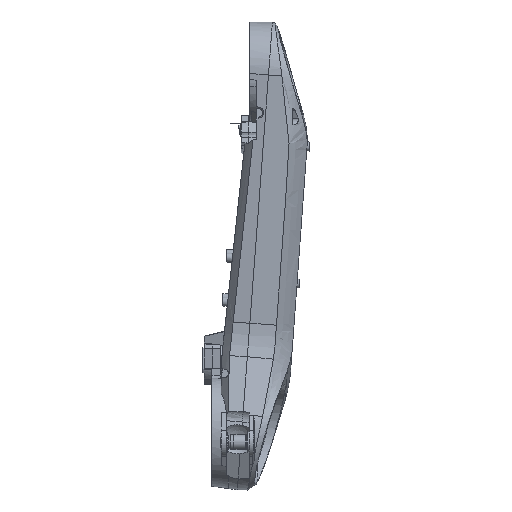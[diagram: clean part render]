
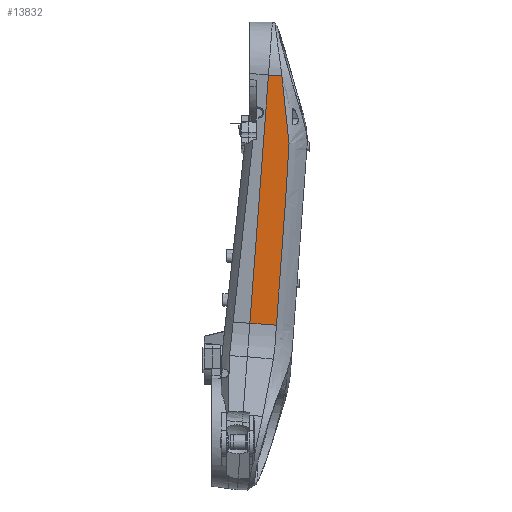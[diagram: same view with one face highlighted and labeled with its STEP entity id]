
A CAD part, left-side view. The second image highlights one B-rep face of the part: STEP entity #13832.
In plain terms, the highlighted planar face has unit normal (-0.996, -0.047, -0.073).
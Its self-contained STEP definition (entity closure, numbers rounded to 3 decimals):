
#414 = CARTESIAN_POINT ( 'NONE',  ( 229.807, -343.113, 1390.671 ) ) ;
#498 = CARTESIAN_POINT ( 'NONE',  ( 205.73, -367.907, 1734.301 ) ) ;
#1577 = CARTESIAN_POINT ( 'NONE',  ( 242.351, -234.819, 1150.414 ) ) ;
#2073 = DIRECTION ( 'NONE',  ( -0.996, -0.047, -0.073 ) ) ;
#2549 = CARTESIAN_POINT ( 'NONE',  ( 189.278, -348.891, 1946.025 ) ) ;
#2771 = CARTESIAN_POINT ( 'NONE',  ( 187.546, -346.544, 1968.094 ) ) ;
#3760 = CARTESIAN_POINT ( 'NONE',  ( 243.999, -328.336, 1188.018 ) ) ;
#3844 = CARTESIAN_POINT ( 'NONE',  ( 202.79, -367.36, 1773.966 ) ) ;
#3961 = CARTESIAN_POINT ( 'NONE',  ( 242.351, -234.819, 1150.414 ) ) ;
#4277 = CARTESIAN_POINT ( 'NONE',  ( 210.679, -363.031, 1663.812 ) ) ;
#5562 = CARTESIAN_POINT ( 'NONE',  ( 184.764, -296.668, 1973.944 ) ) ;
#5837 = CARTESIAN_POINT ( 'NONE',  ( 184.764, -296.668, 1973.944 ) ) ;
#6304 = CARTESIAN_POINT ( 'NONE',  ( 185.97, -343.982, 1987.903 ) ) ;
#6817 = EDGE_LOOP ( 'NONE', ( #26241, #29730, #18148, #32099 ) ) ;
#7097 = CARTESIAN_POINT ( 'NONE',  ( 247.084, -325.127, 1143.963 ) ) ;
#7172 = CARTESIAN_POINT ( 'NONE',  ( 204.608, -368.133, 1749.724 ) ) ;
#7301 = CARTESIAN_POINT ( 'NONE',  ( 213.147, -360.46, 1628.568 ) ) ;
#7383 = CARTESIAN_POINT ( 'NONE',  ( 204.12, -368.081, 1756.335 ) ) ;
#7603 = CARTESIAN_POINT ( 'NONE',  ( 207.594, -366.244, 1707.867 ) ) ;
#8803 = VECTOR ( 'NONE', #22459, 1000. ) ;
#8951 = FACE_OUTER_BOUND ( 'NONE', #6817, .T. ) ;
#9502 = AXIS2_PLACEMENT_3D ( 'NONE', #5837, #2073, #25824 ) ;
#9510 = CARTESIAN_POINT ( 'NONE',  ( 183.407, -298.125, 1993.351 ) ) ;
#9646 = CARTESIAN_POINT ( 'NONE',  ( 186.497, -344.867, 1981.303 ) ) ;
#10421 = CARTESIAN_POINT ( 'NONE',  ( 240.913, -331.547, 1232.073 ) ) ;
#10649 = CARTESIAN_POINT ( 'NONE',  ( 246.467, -325.766, 1152.774 ) ) ;
#10729 = CARTESIAN_POINT ( 'NONE',  ( 206.046, -367.739, 1729.895 ) ) ;
#11234 = CARTESIAN_POINT ( 'NONE',  ( 212.53, -361.102, 1637.379 ) ) ;
#12756 = CARTESIAN_POINT ( 'NONE',  ( 198.986, -362.233, 1822.461 ) ) ;
#13093 = VERTEX_POINT ( 'NONE', #38246 ) ;
#13612 = CARTESIAN_POINT ( 'NONE',  ( 207.44, -366.411, 1710.07 ) ) ;
#13832 = ADVANCED_FACE ( 'NONE', ( #8951 ), #18955, .T. ) ;
#13981 = CARTESIAN_POINT ( 'NONE',  ( 222.403, -350.823, 1496.403 ) ) ;
#14177 = EDGE_CURVE ( 'NONE', #21206, #13093, #35773, .T. ) ;
#14292 = CARTESIAN_POINT ( 'NONE',  ( 208.056, -365.759, 1701.259 ) ) ;
#16529 = CARTESIAN_POINT ( 'NONE',  ( 200.552, -364.546, 1802.622 ) ) ;
#16735 = CARTESIAN_POINT ( 'NONE',  ( 195.508, -357.185, 1866.558 ) ) ;
#17109 = CARTESIAN_POINT ( 'NONE',  ( 246.775, -325.444, 1148.369 ) ) ;
#17854 = CARTESIAN_POINT ( 'NONE',  ( 201.074, -365.319, 1796.01 ) ) ;
#17989 = CARTESIAN_POINT ( 'NONE',  ( 246.93, -325.282, 1146.166 ) ) ;
#18148 = ORIENTED_EDGE ( 'NONE', *, *, #31705, .F. ) ;
#18705 = EDGE_CURVE ( 'NONE', #13093, #32729, #43004, .T. ) ;
#18955 = PLANE ( 'NONE',  #9502 ) ;
#19331 = DIRECTION ( 'NONE',  ( 0.07, 0.075, -0.995 ) ) ;
#19626 = EDGE_CURVE ( 'NONE', #41558, #21206, #26664, .T. ) ;
#19645 = CARTESIAN_POINT ( 'NONE',  ( 199.682, -363.257, 1813.643 ) ) ;
#19869 = CARTESIAN_POINT ( 'NONE',  ( 185.793, -343.654, 1990.098 ) ) ;
#20079 = CARTESIAN_POINT ( 'NONE',  ( 196.898, -359.185, 1848.917 ) ) ;
#20643 = CARTESIAN_POINT ( 'NONE',  ( 246.313, -325.927, 1154.977 ) ) ;
#20940 = CARTESIAN_POINT ( 'NONE',  ( 202.111, -366.7, 1782.783 ) ) ;
#21177 = CARTESIAN_POINT ( 'NONE',  ( 203.126, -367.616, 1769.558 ) ) ;
#21206 = VERTEX_POINT ( 'NONE', #3961 ) ;
#22459 = DIRECTION ( 'NONE',  ( 0.052, -0.996, -0.071 ) ) ;
#22971 = CARTESIAN_POINT ( 'NONE',  ( 188.24, -347.515, 1959.27 ) ) ;
#23186 = CARTESIAN_POINT ( 'NONE',  ( 190.66, -350.666, 1928.358 ) ) ;
#24053 = CARTESIAN_POINT ( 'NONE',  ( 205.092, -368.1, 1743.114 ) ) ;
#24275 = VECTOR ( 'NONE', #19331, 1000. ) ;
#25174 = VECTOR ( 'NONE', #37623, 1000. ) ;
#25824 = DIRECTION ( 'NONE',  ( 0.073, 0., -0.997 ) ) ;
#26089 = CARTESIAN_POINT ( 'NONE',  ( 192.733, -353.343, 1901.858 ) ) ;
#26241 = ORIENTED_EDGE ( 'NONE', *, *, #14177, .T. ) ;
#26308 = CARTESIAN_POINT ( 'NONE',  ( 191.35, -351.541, 1919.522 ) ) ;
#26530 = CARTESIAN_POINT ( 'NONE',  ( 192.387, -352.887, 1906.274 ) ) ;
#26664 = LINE ( 'NONE', #5562, #24275 ) ;
#26960 = CARTESIAN_POINT ( 'NONE',  ( 186.145, -344.268, 1985.702 ) ) ;
#27164 = CARTESIAN_POINT ( 'NONE',  ( 206.978, -366.909, 1716.678 ) ) ;
#27375 = CARTESIAN_POINT ( 'NONE',  ( 209.445, -364.314, 1681.434 ) ) ;
#27525 = CARTESIAN_POINT ( 'NONE',  ( 216.232, -357.248, 1584.513 ) ) ;
#28044 = CARTESIAN_POINT ( 'NONE',  ( 183.407, -298.125, 1993.351 ) ) ;
#29730 = ORIENTED_EDGE ( 'NONE', *, *, #18705, .T. ) ;
#30254 = CARTESIAN_POINT ( 'NONE',  ( 193.426, -354.276, 1893.03 ) ) ;
#30467 = CARTESIAN_POINT ( 'NONE',  ( 207.902, -365.919, 1703.462 ) ) ;
#30603 = CARTESIAN_POINT ( 'NONE',  ( 244.616, -327.694, 1179.207 ) ) ;
#30814 = CARTESIAN_POINT ( 'NONE',  ( 237.211, -335.401, 1284.939 ) ) ;
#31705 = EDGE_CURVE ( 'NONE', #41558, #32729, #41591, .T. ) ;
#32099 = ORIENTED_EDGE ( 'NONE', *, *, #19626, .T. ) ;
#32729 = VERTEX_POINT ( 'NONE', #34545 ) ;
#32926 = CARTESIAN_POINT ( 'NONE',  ( 193.772, -354.751, 1888.617 ) ) ;
#33817 = CARTESIAN_POINT ( 'NONE',  ( 208.828, -364.959, 1690.245 ) ) ;
#34033 = CARTESIAN_POINT ( 'NONE',  ( 211.296, -362.387, 1655.001 ) ) ;
#34174 = CARTESIAN_POINT ( 'NONE',  ( 245.541, -326.732, 1165.99 ) ) ;
#34255 = CARTESIAN_POINT ( 'NONE',  ( 203.791, -367.975, 1760.742 ) ) ;
#34487 = CARTESIAN_POINT ( 'NONE',  ( 201.769, -366.301, 1787.191 ) ) ;
#34545 = CARTESIAN_POINT ( 'NONE',  ( 185.793, -343.654, 1990.098 ) ) ;
#34716 = CARTESIAN_POINT ( 'NONE',  ( 201.249, -365.577, 1793.805 ) ) ;
#35773 = LINE ( 'NONE', #1577, #8803 ) ;
#37169 = CARTESIAN_POINT ( 'NONE',  ( 194.813, -356.196, 1875.38 ) ) ;
#37605 = CARTESIAN_POINT ( 'NONE',  ( 204.77, -368.134, 1747.521 ) ) ;
#37623 = DIRECTION ( 'NONE',  ( 0.052, -0.996, -0.071 ) ) ;
#37747 = CARTESIAN_POINT ( 'NONE',  ( 214.998, -358.533, 1602.135 ) ) ;
#38246 = CARTESIAN_POINT ( 'NONE',  ( 247.084, -325.127, 1143.963 ) ) ;
#39853 = CARTESIAN_POINT ( 'NONE',  ( 189.624, -349.337, 1941.608 ) ) ;
#40070 = CARTESIAN_POINT ( 'NONE',  ( 186.672, -345.172, 1979.105 ) ) ;
#40292 = CARTESIAN_POINT ( 'NONE',  ( 197.594, -360.197, 1840.098 ) ) ;
#40701 = CARTESIAN_POINT ( 'NONE',  ( 206.67, -367.235, 1721.083 ) ) ;
#40846 = CARTESIAN_POINT ( 'NONE',  ( 242.148, -330.264, 1214.451 ) ) ;
#40930 = CARTESIAN_POINT ( 'NONE',  ( 205.252, -368.064, 1740.911 ) ) ;
#41071 = CARTESIAN_POINT ( 'NONE',  ( 245.85, -326.411, 1161.585 ) ) ;
#41558 = VERTEX_POINT ( 'NONE', #9510 ) ;
#41591 = LINE ( 'NONE', #28044, #25174 ) ;
#43004 = B_SPLINE_CURVE_WITH_KNOTS ( 'NONE', 3,
 ( #7097, #17989, #17109, #10649, #20643, #41071, #34174, #30603, #3760, #40846, #10421, #30814, #414, #13981, #27525, #37747, #7301, #11234, #34033, #4277, #27375, #33817, #14292, #30467, #7603, #13612, #27164, #40701, #10729, #498, #40930, #24053, #37605, #7172, #7383, #34255, #21177, #3844, #20940, #34487, #34716, #17854, #43171, #16529, #19645, #12756, #40292, #20079, #16735, #37169, #32926, #30254, #26089, #26530, #26308, #23186, #39853, #2549, #43809, #22971, #2771, #43595, #40070, #9646, #26960, #6304, #19869 ),
 .UNSPECIFIED., .F., .F.,
 ( 4, 2, 2, 2, 2, 2, 1, 2, 2, 2, 2, 2, 2, 2, 2, 2, 2, 2, 2, 2, 2, 2, 2, 2, 2, 2, 2, 2, 2, 2, 2, 2, 2, 4 ),
 ( 0.01, 0.016, 0.023, 0.036, 0.063, 0.116, 0.222, 0.435, 0.488, 0.514, 0.541, 0.568, 0.574, 0.581, 0.594, 0.607, 0.614, 0.621, 0.634, 0.647, 0.661, 0.667, 0.674, 0.7, 0.727, 0.753, 0.767, 0.78, 0.807, 0.82, 0.833, 0.846, 0.853, 0.86 ),
 .UNSPECIFIED. ) ;
#43171 = CARTESIAN_POINT ( 'NONE',  ( 200.726, -364.803, 1800.418 ) ) ;
#43595 = CARTESIAN_POINT ( 'NONE',  ( 187.198, -346.033, 1972.503 ) ) ;
#43809 = CARTESIAN_POINT ( 'NONE',  ( 188.586, -347.98, 1954.856 ) ) ;
